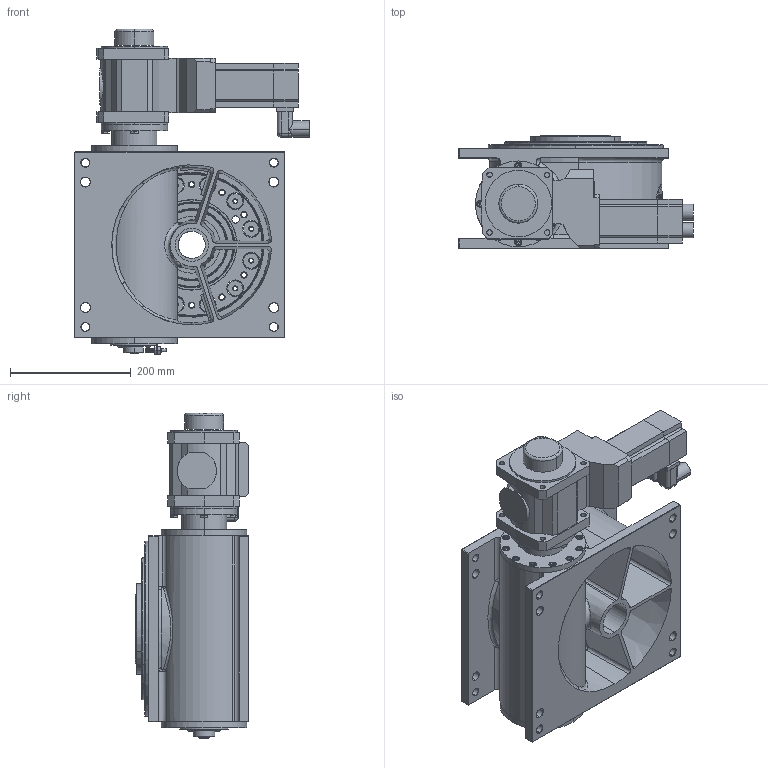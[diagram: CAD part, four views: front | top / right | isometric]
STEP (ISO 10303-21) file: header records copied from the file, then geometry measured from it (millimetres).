
FILE_DESCRIPTION (( 'STEP AP214' ), '1' );
FILE_NAME ('M235_SEW_BSHF302CMP50M_D1.STEP', '2020-06-17T04:53:43', ( '' ), ( '' ), 'SwSTEP 2.0', 'SolidWorks 2020', '' );
FILE_SCHEMA (( 'AUTOMOTIVE_DESIGN' ));
Length unit declared in the file: millimetre
Products named in the file (1): M235_SEW_BSHF302CMP50M_D1
Bounding box: 389 x 188 x 539 mm (x, y, z)
Surface area: 987121.3 mm2 (no closed solid volume)
Topology: 0 solids, 88 shells, 1429 faces, 4190 edges, 2739 vertices
Faces by surface type: plane 521, cylinder 450, cone 269, bspline 97, torus 76, sphere 16
Entity records: 71804 total; most frequent: CARTESIAN_POINT 18972, DIRECTION 7881, ORIENTED_EDGE 7058, EDGE_CURVE 4130, AXIS2_PLACEMENT_3D 2896, VERTEX_POINT 2739, VECTOR 2089, LINE 2089
